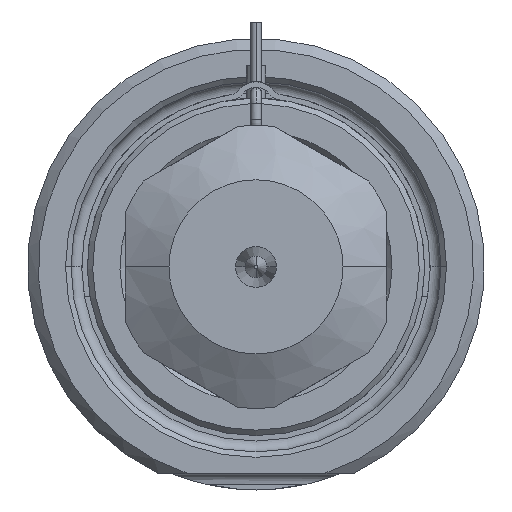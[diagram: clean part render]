
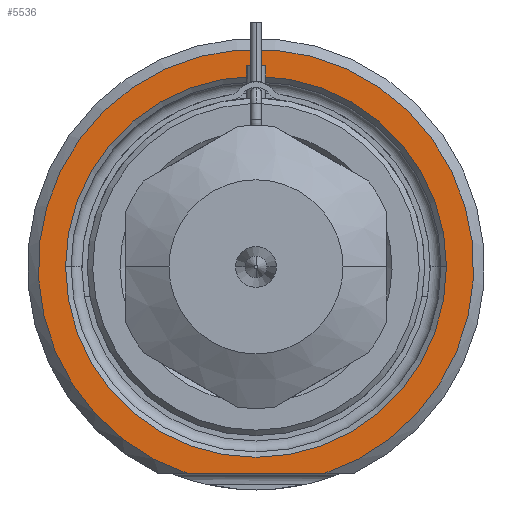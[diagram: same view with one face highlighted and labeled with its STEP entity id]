
A CAD part, front view. The second image highlights one B-rep face of the part: STEP entity #5536.
In plain terms, the highlighted planar face has unit normal (0, -1, 0).
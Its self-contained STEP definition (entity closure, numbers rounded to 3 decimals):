
#1368=DIRECTION('',(1.,0.,0.));
#1369=VECTOR('',#1368,12.49);
#1370=CARTESIAN_POINT('',(-6.245,0.,-19.));
#1371=LINE('',#1370,#1369);
#1372=CARTESIAN_POINT('',(0.,0.,0.));
#1373=DIRECTION('',(0.,1.,0.));
#1374=DIRECTION('',(-1.,0.,0.));
#1375=AXIS2_PLACEMENT_3D('',#1372,#1373,#1374);
#1377=CARTESIAN_POINT('',(0.,0.,0.));
#1378=DIRECTION('',(0.,1.,0.));
#1379=DIRECTION('',(1.,0.,0.));
#1380=AXIS2_PLACEMENT_3D('',#1377,#1378,#1379);
#1486=CARTESIAN_POINT('',(0.,0.,0.));
#1487=DIRECTION('',(0.,-1.,0.));
#1488=DIRECTION('',(0.312,0.,-0.95));
#1489=AXIS2_PLACEMENT_3D('',#1486,#1487,#1488);
#3440=CARTESIAN_POINT('',(-17.5,0.,0.));
#3441=CARTESIAN_POINT('',(17.5,0.,0.));
#3442=VERTEX_POINT('',#3440);
#3443=VERTEX_POINT('',#3441);
#3484=CARTESIAN_POINT('',(-6.245,0.,-19.));
#3485=CARTESIAN_POINT('',(6.245,0.,-19.));
#3486=VERTEX_POINT('',#3484);
#3487=VERTEX_POINT('',#3485);
#5520=CARTESIAN_POINT('',(0.,0.,0.));
#5521=DIRECTION('',(0.,-1.,0.));
#5522=DIRECTION('',(1.,0.,0.));
#5523=AXIS2_PLACEMENT_3D('',#5520,#5521,#5522);
#5524=PLANE('',#5523);
#5526=ORIENTED_EDGE('',*,*,#5525,.F.);
#5528=ORIENTED_EDGE('',*,*,#5527,.F.);
#5529=EDGE_LOOP('',(#5526,#5528));
#5530=FACE_OUTER_BOUND('',#5529,.F.);
#5531=ORIENTED_EDGE('',*,*,#5510,.F.);
#5533=ORIENTED_EDGE('',*,*,#5532,.F.);
#5534=EDGE_LOOP('',(#5531,#5533));
#5535=FACE_BOUND('',#5534,.F.);
#5536=ADVANCED_FACE('',(#5530,#5535),#5524,.T.);
#1376=CIRCLE('',#1375,17.5);
#1381=CIRCLE('',#1380,17.5);
#1490=CIRCLE('',#1489,20.);
#5510=EDGE_CURVE('',#3442,#3443,#1376,.T.);
#5525=EDGE_CURVE('',#3486,#3487,#1371,.T.);
#5527=EDGE_CURVE('',#3487,#3486,#1490,.T.);
#5532=EDGE_CURVE('',#3443,#3442,#1381,.T.);
